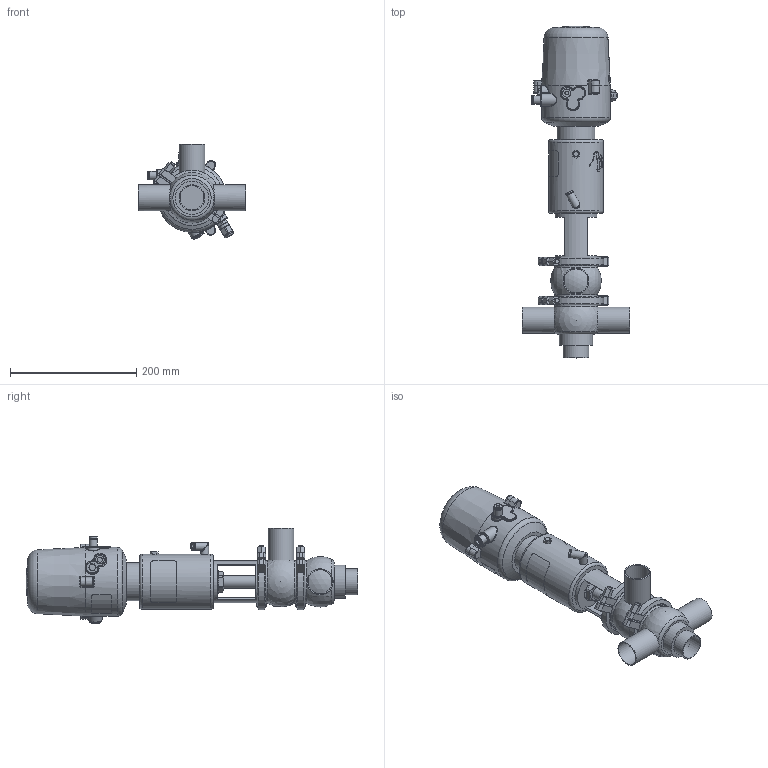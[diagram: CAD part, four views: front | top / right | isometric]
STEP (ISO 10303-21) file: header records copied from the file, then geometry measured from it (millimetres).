
FILE_DESCRIPTION (( 'STEP AP214' ), '1' );
FILE_NAME ('INNOVA K F W DIN 040 T1 AS NC & C-TOP S_10.240.16.0079.STEP', '2024-08-06T09:10:01', ( '' ), ( '' ), 'SwSTEP 2.0', 'SolidWorks 2023', '' );
FILE_SCHEMA (( 'AUTOMOTIVE_DESIGN' ));
Length unit declared in the file: millimetre
Products named in the file (8): 10.240.15.0006_DIN 040; 10.240.15.0017_Estàndard; INNOVA K F W DIN 040 T1 AS NC & C-TOP S_10.240.16.0079; 10.240.15.0001_DN 040; 10.240.15.0014_T1 AS P0; 10.426.15.0001_C-TOP S - 1 EV; 10.240.15.0010_DN 040; 10.240.15.0003_DIN 040
Assembly tree (8 placements, depth 2):
  INNOVA K F W DIN 040 T1 AS NC & C-TOP S_10.240.16.0079
    10.240.15.0006_DIN 040
    10.240.15.0003_DIN 040
    10.240.15.0010_DN 040
    10.240.15.0014_T1 AS P0
    10.240.15.0017_Estàndard
    10.426.15.0001_C-TOP S - 1 EV
    10.240.15.0001_DN 040  x2
Bounding box: 170 x 526 x 151.63 mm (x, y, z)
Volume: 2875562 mm3; surface area: 293413.8 mm2
Topology: 8 solids, 8 shells, 1178 faces, 2845 edges, 1894 vertices
Faces by surface type: plane 411, cylinder 358, cone 201, bspline 160, torus 39, sphere 9
Full cylindrical faces by diameter (mm): 0.371 x17, 0.512 x16, 0.658 x16, 0.795 x16, 0.94 x15, 1.098 x15, 1.241 x13, 1.382 x13, 1.523 x11, 1.669 x10, 2.201 x1, 4 x2, 5.5 x2, 6 x2, 6.15 x1, 8 x6, 8.5 x1, 10 x1, 10.5 x1, 11 x2, 12.5 x3, 13 x2, 13.5 x2, 16 x1, 17 x3, 20 x3, 20.5 x1, 22 x2, 31 x1, 34.5 x3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
Entity records: 57131 total; most frequent: CARTESIAN_POINT 26818, ORIENTED_EDGE 4530, DIRECTION 3673, EDGE_CURVE 2265, VERTEX_POINT 1612, EDGE_LOOP 1579, AXIS2_PLACEMENT_3D 1508, FACE_OUTER_BOUND 1339
